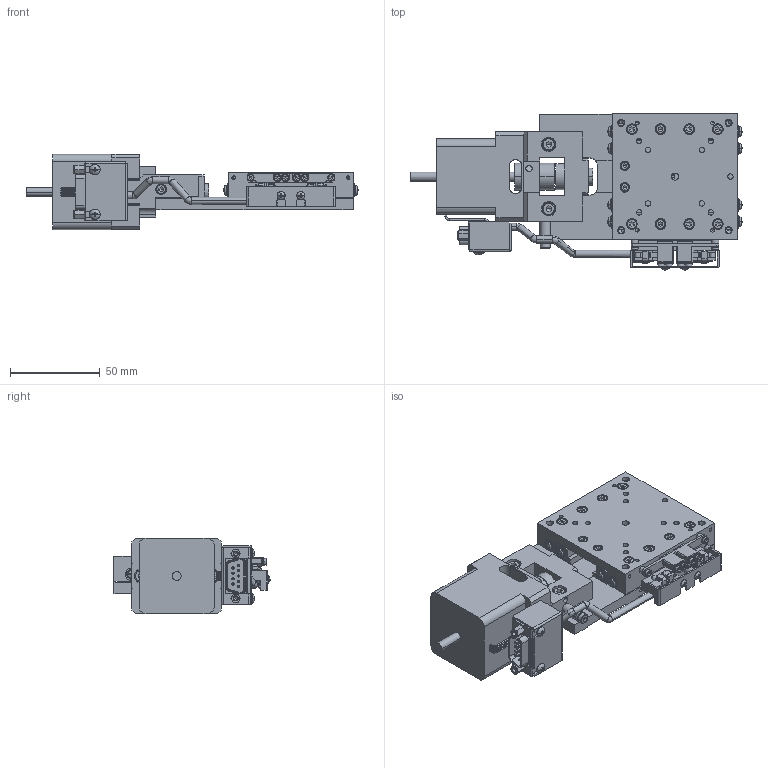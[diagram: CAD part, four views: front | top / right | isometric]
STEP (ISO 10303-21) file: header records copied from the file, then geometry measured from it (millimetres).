
FILE_DESCRIPTION( (''), '2;1');
FILE_NAME ('MVXA07A-R103.stp','2022-03-28T17:21:57',(''),(''),'spGate 17.5.5','','');
FILE_SCHEMA (('AUTOMOTIVE_DESIGN'));
Length unit declared in the file: millimetre
Products named in the file (3): Assembly; MVXA07A-R103-prt0; MVXA07A-R103-prt1
Assembly tree (2 placements, depth 2):
  Assembly
    MVXA07A-R103-prt0
    MVXA07A-R103-prt1
Bounding box: 185.49 x 87.18 x 42 mm (x, y, z)
Volume: 212489 mm3; surface area: 78031.3 mm2
Topology: 2 solids, 4 shells, 2884 faces, 7122 edges, 4320 vertices
Faces by surface type: plane 1588, cylinder 778, bspline 464, sphere 54
Entity records: 144824 total; most frequent: CARTESIAN_POINT 23114, ORIENTED_EDGE 13936, DIRECTION 12980, COLOUR_RGB 9854, PRESENTATION_STYLE_ASSIGNMENT 9854, STYLED_ITEM 9854, EDGE_CURVE 6968, DRAUGHTING_PRE_DEFINED_CURVE_FONT 6968
